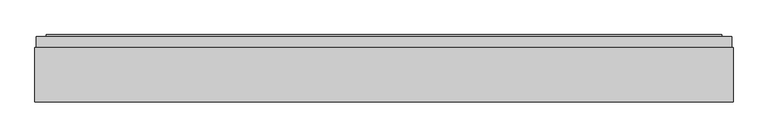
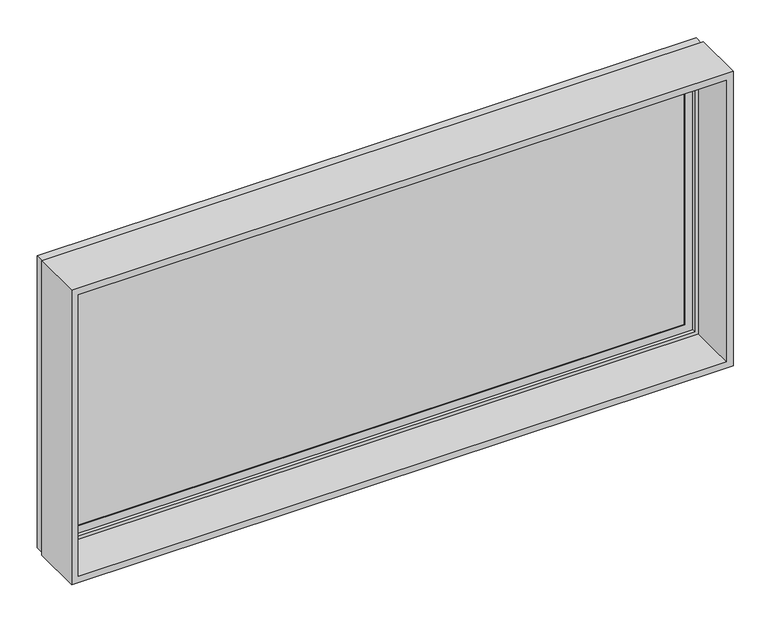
"""IFC4 building model written with IfcOpenShell, lengths in millimetres: plate geometry, SCISSOR PANEL : SCISSOR PANEL."""

from ifc_helpers import new_model, si_unit, frame, origin, place, context, project, spatial, polyline, outline, extrude, faceted_brep, source, transform, mapped, element, save


def plate_1be53235(model_context):
    return source(origin(), model_context, "Body", "SolidModel", [
        extrude(outline(polyline([(800.0, -850.0), (0.0, -850.0), (0.0, 850.0), (800.0, 850.0), (800.0, -850.0)]), holes=[polyline([(17.5, -832.5), (782.5, -832.5), (782.5, 832.5), (17.5, 832.5), (17.5, -832.5)])]), frame((0.0, 0.0, 0.0), z_axis=(0.0, 1.0, 0.0), x_axis=(0.0, 0.0, 1.0)), (0.0, 0.0, 1.0), 132.5),
        extrude(outline(polyline([(-819.5, 160.5), (819.5, 160.5), (819.5, 135.5), (-819.5, 135.5), (-819.5, 160.5)])), frame((0.0, 0.0, 30.5), z_axis=(0.0, 0.0, 1.0), x_axis=(1.0, 0.0, 0.0)), (0.0, 0.0, 1.0), 739.0),
        faceted_brep([(-802.5, 135.5, 752.5), (-802.5, 132.5, 752.5), (-802.5, 132.5, 47.5), (-802.5, 135.5, 47.5), (-819.5, 160.5, 769.5), (-819.5, 135.5, 769.5), (-819.5, 135.5, 30.5), (-819.5, 160.5, 30.5), (-802.5, 163.5, 752.5), (-802.5, 160.5, 752.5), (-802.5, 160.5, 47.5), (-802.5, 163.5, 47.5), (-822.5, 132.5, 772.5), (-822.5, 163.5, 772.5), (-822.5, 163.5, 27.5), (-822.5, 132.5, 27.5), (802.5, 132.5, 47.5), (802.5, 135.5, 47.5), (819.5, 135.5, 30.5), (819.5, 160.5, 30.5), (802.5, 160.5, 47.5), (802.5, 163.5, 47.5), (822.5, 163.5, 27.5), (822.5, 132.5, 27.5), (802.5, 132.5, 752.5), (802.5, 135.5, 752.5), (819.5, 135.5, 769.5), (819.5, 160.5, 769.5), (802.5, 160.5, 752.5), (802.5, 163.5, 752.5), (822.5, 163.5, 772.5), (822.5, 132.5, 772.5)], [[[0, 1, 2, 3]], [[4, 5, 6, 7]], [[8, 9, 10, 11]], [[12, 13, 14, 15]], [[3, 2, 16, 17]], [[7, 6, 18, 19]], [[11, 10, 20, 21]], [[15, 14, 22, 23]], [[17, 16, 24, 25]], [[19, 18, 26, 27]], [[21, 20, 28, 29]], [[23, 22, 30, 31]], [[15, 23, 31, 12], [1, 24, 16, 2]], [[25, 24, 1, 0]], [[5, 26, 18, 6], [3, 17, 25, 0]], [[27, 26, 5, 4]], [[7, 19, 27, 4], [9, 28, 20, 10]], [[29, 28, 9, 8]], [[13, 30, 22, 14], [11, 21, 29, 8]], [[31, 30, 13, 12]]]),
        faceted_brep([(-846.5, 132.5, 796.5), (-846.5, 158.75, 796.5), (-846.5, 158.75, 3.5), (-846.5, 132.5, 3.5), (-839.5, 150.0, 789.5), (-839.5, 132.5, 789.5), (-839.5, 132.5, 10.5), (-839.5, 150.0, 10.5), (-832.5, 123.75, 782.5), (-832.5, 150.0, 782.5), (-832.5, 150.0, 17.5), (-832.5, 123.75, 17.5), (-822.5, 158.75, 772.5), (-822.5, 123.75, 772.5), (-822.5, 123.75, 27.5), (-822.5, 158.75, 27.5), (846.5, 158.75, 3.5), (846.5, 132.5, 3.5), (839.5, 132.5, 10.5), (839.5, 150.0, 10.5), (832.5, 150.0, 17.5), (832.5, 123.75, 17.5), (822.5, 123.75, 27.5), (822.5, 158.75, 27.5), (846.5, 158.75, 796.5), (846.5, 132.5, 796.5), (839.5, 132.5, 789.5), (839.5, 150.0, 789.5), (832.5, 150.0, 782.5), (832.5, 123.75, 782.5), (822.5, 123.75, 772.5), (822.5, 158.75, 772.5)], [[[0, 1, 2, 3]], [[4, 5, 6, 7]], [[8, 9, 10, 11]], [[12, 13, 14, 15]], [[3, 2, 16, 17]], [[7, 6, 18, 19]], [[11, 10, 20, 21]], [[15, 14, 22, 23]], [[17, 16, 24, 25]], [[19, 18, 26, 27]], [[21, 20, 28, 29]], [[23, 22, 30, 31]], [[25, 24, 1, 0]], [[3, 17, 25, 0], [5, 26, 18, 6]], [[27, 26, 5, 4]], [[7, 19, 27, 4], [9, 28, 20, 10]], [[29, 28, 9, 8]], [[11, 21, 29, 8], [13, 30, 22, 14]], [[31, 30, 13, 12]], [[1, 24, 16, 2], [15, 23, 31, 12]]]),
        extrude(outline(polyline([(789.5, -839.5), (10.5, -839.5), (10.5, 839.5), (789.5, 839.5), (789.5, -839.5)]), holes=[polyline([(782.5, -832.5), (782.5, 832.5), (17.5, 832.5), (17.5, -832.5), (782.5, -832.5)])]), frame((0.0, 132.5, 0.0), z_axis=(0.0, 1.0, 0.0), x_axis=(0.0, 0.0, 1.0)), (0.0, 0.0, 1.0), 17.5),
    ])


if __name__ == "__main__":
    model = new_model("IFC4")
    model_context = context("Model", 3, world=origin())
    ifc_project = project(units=[si_unit("LENGTHUNIT", "METRE", prefix="MILLI")], contexts=[model_context])
    site = spatial("IfcSite", under=ifc_project)
    building = spatial("IfcBuilding", under=site)
    placement = place(None, origin())
    plate_shape = plate_1be53235(model_context)
    element("IfcPlate", 1, ObjectType="SCISSOR PANEL : SCISSOR PANEL", at=placement, inside=building, context=model_context, shape_type="MappedRepresentation", body=[
        mapped(plate_shape, transform((0.0, 0.0, 0.0), x_axis=(1.0, 0.0, 0.0), y_axis=(0.0, 1.0, 0.0), z_axis=(0.0, 0.0, 1.0))),
    ])
    save(model, "model.ifc")
